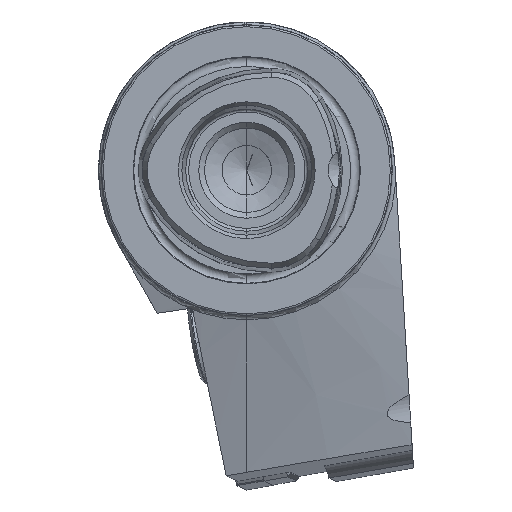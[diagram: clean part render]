
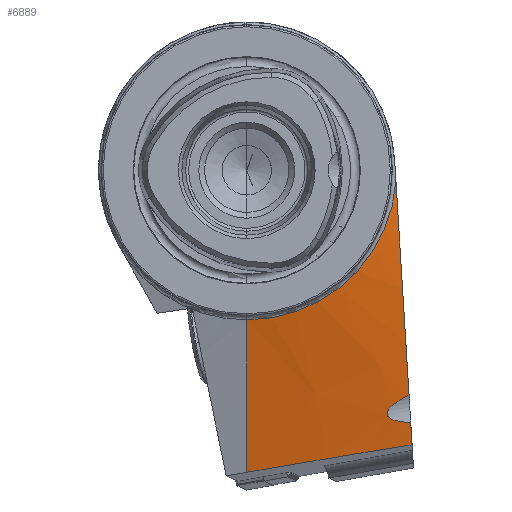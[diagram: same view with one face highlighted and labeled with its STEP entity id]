
A CAD part, left-side view. The second image highlights one B-rep face of the part: STEP entity #6889.
In plain terms, the highlighted conical face has half-angle 75 degrees and reference radius 58.259 mm.
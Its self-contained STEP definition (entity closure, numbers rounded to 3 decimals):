
#559 = CARTESIAN_POINT ( 'NONE',  ( 32.182, -28.205, -43.451 ) ) ;
#581 = EDGE_CURVE ( 'NONE', #16774, #14892, #15365, .T. ) ;
#667 = DIRECTION ( 'NONE',  ( 1., 0., 0. ) ) ;
#683 = CARTESIAN_POINT ( 'NONE',  ( 32.476, -28.282, -44.71 ) ) ;
#705 = CARTESIAN_POINT ( 'NONE',  ( 32.594, -23.703, -47.991 ) ) ;
#787 = AXIS2_PLACEMENT_3D ( 'NONE', #2226, #667, #15147 ) ;
#816 = CARTESIAN_POINT ( 'NONE',  ( 31.047, -25.14, -40.386 ) ) ;
#969 = DIRECTION ( 'NONE',  ( 0.259, 0., -0.966 ) ) ;
#975 = VERTEX_POINT ( 'NONE', #2833 ) ;
#1202 = CARTESIAN_POINT ( 'NONE',  ( 25.427, -26.049, -8.191 ) ) ;
#1886 = CARTESIAN_POINT ( 'NONE',  ( 32.182, -28.205, -43.451 ) ) ;
#2196 = CARTESIAN_POINT ( 'NONE',  ( 31.606, -25.034, -42.882 ) ) ;
#2226 = CARTESIAN_POINT ( 'NONE',  ( 25.199, 0., 0. ) ) ;
#2447 = CARTESIAN_POINT ( 'NONE',  ( 33.912, 0., 0. ) ) ;
#2751 = CARTESIAN_POINT ( 'NONE',  ( 29.719, -27.54, -32.574 ) ) ;
#2833 = CARTESIAN_POINT ( 'NONE',  ( 25.199, 0., -25.741 ) ) ;
#3389 = CARTESIAN_POINT ( 'NONE',  ( 32.117, -27.801, -43.427 ) ) ;
#3543 = VERTEX_POINT ( 'NONE', #16823 ) ;
#3557 = CARTESIAN_POINT ( 'NONE',  ( 31.055, -27.549, -38.815 ) ) ;
#3634 = LINE ( 'NONE', #5004, #10794 ) ;
#4228 = CONICAL_SURFACE ( 'NONE', #5590, 58.259, 1.309 ) ;
#4293 = ORIENTED_EDGE ( 'NONE', *, *, #14638, .T. ) ;
#4583 = CARTESIAN_POINT ( 'NONE',  ( 31.334, -24.199, -42.192 ) ) ;
#4603 = B_SPLINE_CURVE_WITH_KNOTS ( 'NONE', 3,
 ( #559, #3389, #16569, #13917, #12541, #12458, #8434, #2196, #14949, #10066, #15280, #4583, #16652, #7506, #11180, #12706, #13999, #16487, #12375, #816, #8603, #9983, #7339, #9902, #3557, #6041 ),
 .UNSPECIFIED., .F., .F.,
 ( 4, 2, 2, 2, 2, 2, 2, 2, 2, 2, 2, 2, 4 ),
 ( 0.012, 0.013, 0.014, 0.015, 0.016, 0.016, 0.016, 0.017, 0.017, 0.018, 0.019, 0.02, 0.022 ),
 .UNSPECIFIED. ) ;
#4735 = CARTESIAN_POINT ( 'NONE',  ( 32.225, 0., -51.965 ) ) ;
#5004 = CARTESIAN_POINT ( 'NONE',  ( 33.912, 0., -58.259 ) ) ;
#5590 = AXIS2_PLACEMENT_3D ( 'NONE', #2447, #10159, #12965 ) ;
#6041 = CARTESIAN_POINT ( 'NONE',  ( 31.07, -27.91, -38.623 ) ) ;
#6613 = CARTESIAN_POINT ( 'NONE',  ( 31.07, -27.91, -38.623 ) ) ;
#6633 = CARTESIAN_POINT ( 'NONE',  ( 31.07, -27.91, -38.623 ) ) ;
#6785 = CARTESIAN_POINT ( 'NONE',  ( 28.459, -27.169, -26.51 ) ) ;
#6889 = ADVANCED_FACE ( 'NONE', ( #12630 ), #4228, .T. ) ;
#7042 = ORIENTED_EDGE ( 'NONE', *, *, #8891, .T. ) ;
#7068 = CARTESIAN_POINT ( 'NONE',  ( 31.969, -9.488, -50.345 ) ) ;
#7314 = VERTEX_POINT ( 'NONE', #6633 ) ;
#7339 = CARTESIAN_POINT ( 'NONE',  ( 31.029, -26.485, -39.436 ) ) ;
#7357 = ORIENTED_EDGE ( 'NONE', *, *, #13562, .T. ) ;
#7506 = CARTESIAN_POINT ( 'NONE',  ( 31.257, -24.137, -41.894 ) ) ;
#7654 = CARTESIAN_POINT ( 'NONE',  ( 32.225, 0., -51.965 ) ) ;
#7713 = CARTESIAN_POINT ( 'NONE',  ( 25.199, -25.667, -1.952 ) ) ;
#8188 = CIRCLE ( 'NONE', #787, 25.741 ) ;
#8434 = CARTESIAN_POINT ( 'NONE',  ( 31.69, -25.412, -43.022 ) ) ;
#8584 = CARTESIAN_POINT ( 'NONE',  ( 32.006, -4.746, -51.149 ) ) ;
#8603 = CARTESIAN_POINT ( 'NONE',  ( 31.037, -25.464, -40.134 ) ) ;
#8660 = EDGE_CURVE ( 'NONE', #7314, #3543, #9810, .T. ) ;
#8891 = EDGE_CURVE ( 'NONE', #975, #16774, #3634, .T. ) ;
#9775 = CARTESIAN_POINT ( 'NONE',  ( 32.773, -28.359, -45.968 ) ) ;
#9810 = B_SPLINE_CURVE_WITH_KNOTS ( 'NONE', 3,
 ( #6613, #14474, #2751, #6785, #11994, #10618, #1202, #7713 ),
 .UNSPECIFIED., .F., .F.,
 ( 4, 2, 2, 4 ),
 ( 0.014, 0.023, 0.033, 0.051 ),
 .UNSPECIFIED. ) ;
#9865 = CARTESIAN_POINT ( 'NONE',  ( 32.182, -28.205, -43.451 ) ) ;
#9902 = CARTESIAN_POINT ( 'NONE',  ( 31.043, -27.191, -39.014 ) ) ;
#9983 = CARTESIAN_POINT ( 'NONE',  ( 31.027, -26.135, -39.658 ) ) ;
#10044 = ORIENTED_EDGE ( 'NONE', *, *, #12002, .T. ) ;
#10066 = CARTESIAN_POINT ( 'NONE',  ( 31.468, -24.514, -42.588 ) ) ;
#10159 = DIRECTION ( 'NONE',  ( 1., 0., 0. ) ) ;
#10436 = CARTESIAN_POINT ( 'NONE',  ( 33.072, -28.436, -47.227 ) ) ;
#10618 = CARTESIAN_POINT ( 'NONE',  ( 26.26, -26.424, -14.328 ) ) ;
#10794 = VECTOR ( 'NONE', #969, 1000. ) ;
#11014 = EDGE_LOOP ( 'NONE', ( #4293, #7042, #13086, #7357, #10044, #14205 ) ) ;
#11180 = CARTESIAN_POINT ( 'NONE',  ( 31.234, -24.145, -41.791 ) ) ;
#11994 = CARTESIAN_POINT ( 'NONE',  ( 27.864, -26.983, -23.472 ) ) ;
#12002 = EDGE_CURVE ( 'NONE', #14030, #7314, #4603, .T. ) ;
#12375 = CARTESIAN_POINT ( 'NONE',  ( 31.085, -24.698, -40.818 ) ) ;
#12458 = CARTESIAN_POINT ( 'NONE',  ( 31.729, -25.607, -43.079 ) ) ;
#12541 = CARTESIAN_POINT ( 'NONE',  ( 31.844, -26.194, -43.225 ) ) ;
#12630 = FACE_OUTER_BOUND ( 'NONE', #11014, .T. ) ;
#12706 = CARTESIAN_POINT ( 'NONE',  ( 31.174, -24.213, -41.492 ) ) ;
#12965 = DIRECTION ( 'NONE',  ( 0., 0., -1. ) ) ;
#13086 = ORIENTED_EDGE ( 'NONE', *, *, #581, .T. ) ;
#13158 = B_SPLINE_CURVE_WITH_KNOTS ( 'NONE', 3,
 ( #14907, #9775, #683, #9865 ),
 .UNSPECIFIED., .F., .F.,
 ( 4, 4 ),
 ( 0.005, 0.009 ),
 .UNSPECIFIED. ) ;
#13562 = EDGE_CURVE ( 'NONE', #14892, #14030, #13158, .T. ) ;
#13732 = CARTESIAN_POINT ( 'NONE',  ( 33.072, -28.436, -47.227 ) ) ;
#13917 = CARTESIAN_POINT ( 'NONE',  ( 31.915, -26.592, -43.291 ) ) ;
#13999 = CARTESIAN_POINT ( 'NONE',  ( 31.145, -24.317, -41.307 ) ) ;
#14030 = VERTEX_POINT ( 'NONE', #1886 ) ;
#14205 = ORIENTED_EDGE ( 'NONE', *, *, #8660, .T. ) ;
#14474 = CARTESIAN_POINT ( 'NONE',  ( 30.384, -27.725, -35.6 ) ) ;
#14638 = EDGE_CURVE ( 'NONE', #3543, #975, #8188, .T. ) ;
#14892 = VERTEX_POINT ( 'NONE', #10436 ) ;
#14907 = CARTESIAN_POINT ( 'NONE',  ( 33.072, -28.436, -47.227 ) ) ;
#14949 = CARTESIAN_POINT ( 'NONE',  ( 31.563, -24.852, -42.8 ) ) ;
#15147 = DIRECTION ( 'NONE',  ( 0., 0., -1. ) ) ;
#15180 = CARTESIAN_POINT ( 'NONE',  ( 32.263, -18.967, -48.767 ) ) ;
#15280 = CARTESIAN_POINT ( 'NONE',  ( 31.416, -24.353, -42.454 ) ) ;
#15365 = B_SPLINE_CURVE_WITH_KNOTS ( 'NONE', 3,
 ( #4735, #8584, #7068, #15180, #705, #13732 ),
 .UNSPECIFIED., .F., .F.,
 ( 4, 2, 4 ),
 ( 0.004, 0.018, 0.032 ),
 .UNSPECIFIED. ) ;
#16487 = CARTESIAN_POINT ( 'NONE',  ( 31.101, -24.557, -40.973 ) ) ;
#16569 = CARTESIAN_POINT ( 'NONE',  ( 32.051, -27.395, -43.393 ) ) ;
#16652 = CARTESIAN_POINT ( 'NONE',  ( 31.307, -24.165, -42.095 ) ) ;
#16774 = VERTEX_POINT ( 'NONE', #7654 ) ;
#16823 = CARTESIAN_POINT ( 'NONE',  ( 25.199, -25.667, -1.952 ) ) ;
